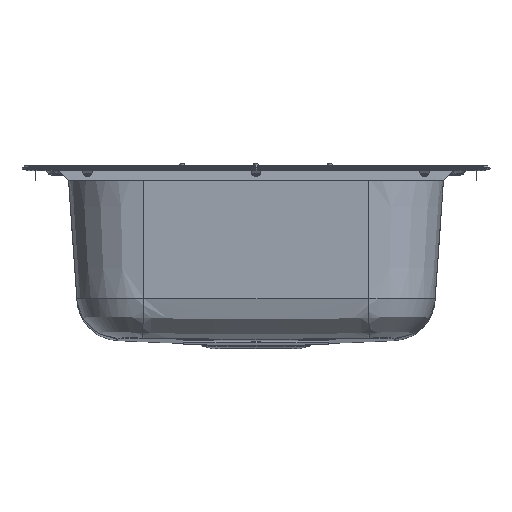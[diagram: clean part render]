
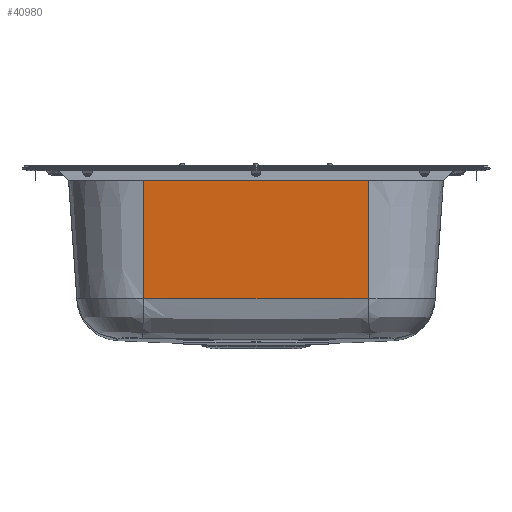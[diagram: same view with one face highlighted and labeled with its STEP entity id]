
A CAD part, left-side view. The second image highlights one B-rep face of the part: STEP entity #40980.
In plain terms, the highlighted planar face has unit normal (-0.998, 0, -0.07) as drawn and (0, -0.07, -0.998) by its records, which use the part's own axes.
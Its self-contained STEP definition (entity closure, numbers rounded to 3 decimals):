
#38127=DIRECTION('',(1.,0.,0.));
#38128=VECTOR('',#38127,240.);
#38129=CARTESIAN_POINT('',(-120.,-1.909,-170.568));
#38130=LINE('',#38129,#38128);
#38131=CARTESIAN_POINT('',(120.,-131.825,
-161.484));
#38132=CARTESIAN_POINT('',(115.921,-131.93,
-161.476));
#38133=CARTESIAN_POINT('',(107.848,-132.13,
-161.462));
#38134=CARTESIAN_POINT('',(96.014,-132.401,
-161.443));
#38135=CARTESIAN_POINT('',(84.394,-132.645,
-161.426));
#38136=CARTESIAN_POINT('',(72.944,-132.86,
-161.411));
#38137=CARTESIAN_POINT('',(61.61,-133.046,
-161.398));
#38138=CARTESIAN_POINT('',(50.353,-133.204,
-161.387));
#38139=CARTESIAN_POINT('',(39.143,-133.332,
-161.378));
#38140=CARTESIAN_POINT('',(27.954,-133.43,
-161.371));
#38141=CARTESIAN_POINT('',(16.772,-133.495,
-161.367));
#38142=CARTESIAN_POINT('',(5.591,-133.528,
-161.365));
#38143=CARTESIAN_POINT('',(-5.591,-133.528,
-161.365));
#38144=CARTESIAN_POINT('',(-16.772,-133.495,
-161.367));
#38145=CARTESIAN_POINT('',(-27.954,-133.43,
-161.371));
#38146=CARTESIAN_POINT('',(-39.143,-133.332,
-161.378));
#38147=CARTESIAN_POINT('',(-50.353,-133.204,
-161.387));
#38148=CARTESIAN_POINT('',(-61.61,-133.046,
-161.398));
#38149=CARTESIAN_POINT('',(-72.945,-132.86,
-161.411));
#38150=CARTESIAN_POINT('',(-84.394,-132.645,
-161.426));
#38151=CARTESIAN_POINT('',(-96.014,-132.401,
-161.443));
#38152=CARTESIAN_POINT('',(-107.848,-132.13,
-161.462));
#38153=CARTESIAN_POINT('',(-115.921,-131.93,
-161.476));
#38154=CARTESIAN_POINT('',(-120.,-131.825,
-161.484));
#38156=DIRECTION('',(0.,-0.998,0.07));
#38157=VECTOR('',#38156,130.233);
#38158=CARTESIAN_POINT('',(120.,-1.909,-170.568));
#38159=LINE('',#38158,#38157);
#38194=DIRECTION('',(0.,-0.998,0.07));
#38195=VECTOR('',#38194,130.233);
#38196=CARTESIAN_POINT('',(-120.,-1.909,-170.568));
#38197=LINE('',#38196,#38195);
#38602=CARTESIAN_POINT('',(120.,-131.825,
-161.484));
#40260=VERTEX_POINT('',#38602);
#40262=VERTEX_POINT('',#38154);
#40291=CARTESIAN_POINT('',(-120.,-1.909,-170.568));
#40293=VERTEX_POINT('',#40291);
#40296=CARTESIAN_POINT('',(120.,-1.909,-170.568));
#40297=VERTEX_POINT('',#40296);
#40966=CARTESIAN_POINT('',(120.,-0.049,-170.698));
#40967=DIRECTION('',(0.,-0.07,-0.998));
#40968=DIRECTION('',(0.,-0.998,0.07));
#40969=AXIS2_PLACEMENT_3D('',#40966,#40967,#40968);
#40970=PLANE('',#40969);
#40971=ORIENTED_EDGE('',*,*,#40960,.F.);
#40973=ORIENTED_EDGE('',*,*,#40972,.T.);
#40975=ORIENTED_EDGE('',*,*,#40974,.F.);
#40977=ORIENTED_EDGE('',*,*,#40976,.F.);
#40978=EDGE_LOOP('',(#40971,#40973,#40975,#40977));
#40979=FACE_OUTER_BOUND('',#40978,.F.);
#40980=ADVANCED_FACE('',(#40979),#40970,.T.);
#38155=B_SPLINE_CURVE_WITH_KNOTS('',3,(#38131,#38132,#38133,#38134,#38135,
#38136,#38137,#38138,#38139,#38140,#38141,#38142,#38143,#38144,#38145,#38146,
#38147,#38148,#38149,#38150,#38151,#38152,#38153,#38154),.UNSPECIFIED.,.F.,.F.,(
4,1,1,1,1,1,1,1,1,1,1,1,1,1,1,1,1,1,1,1,1,4),(0.,0.048,
0.095,0.143,0.19,0.238,
0.286,0.333,0.381,0.429,
0.476,0.524,0.571,0.619,
0.667,0.714,0.762,0.81,
0.857,0.905,0.952,1.),.UNSPECIFIED.);
#40960=EDGE_CURVE('',#40293,#40297,#38130,.T.);
#40972=EDGE_CURVE('',#40293,#40262,#38197,.T.);
#40974=EDGE_CURVE('',#40260,#40262,#38155,.T.);
#40976=EDGE_CURVE('',#40297,#40260,#38159,.T.);
